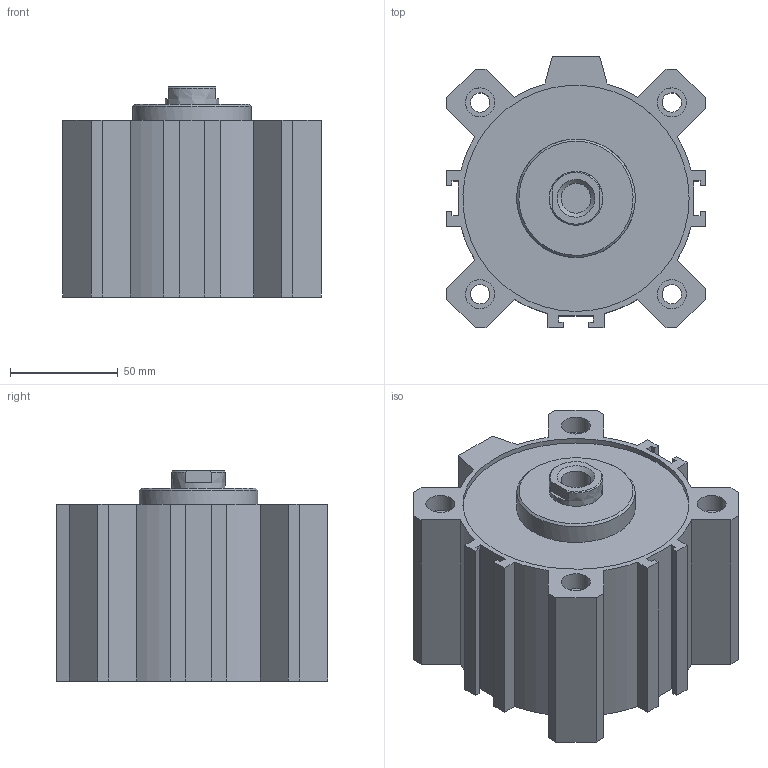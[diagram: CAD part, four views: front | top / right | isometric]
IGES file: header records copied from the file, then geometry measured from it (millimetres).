
Global section: file name: 1511_100_0030; native system: Autodesk Inventor 2014; preprocessor: unknown; author: A. Manieri; date: 20160824.162541; units: millimetre
Bounding box: 120 x 126 x 97.5 mm (x, y, z)
Volume: 728252.2 mm3; surface area: 147293.8 mm2
Topology: 2 solids, 2 shells, 119 faces, 307 edges, 210 vertices
Faces by surface type: bspline 119
